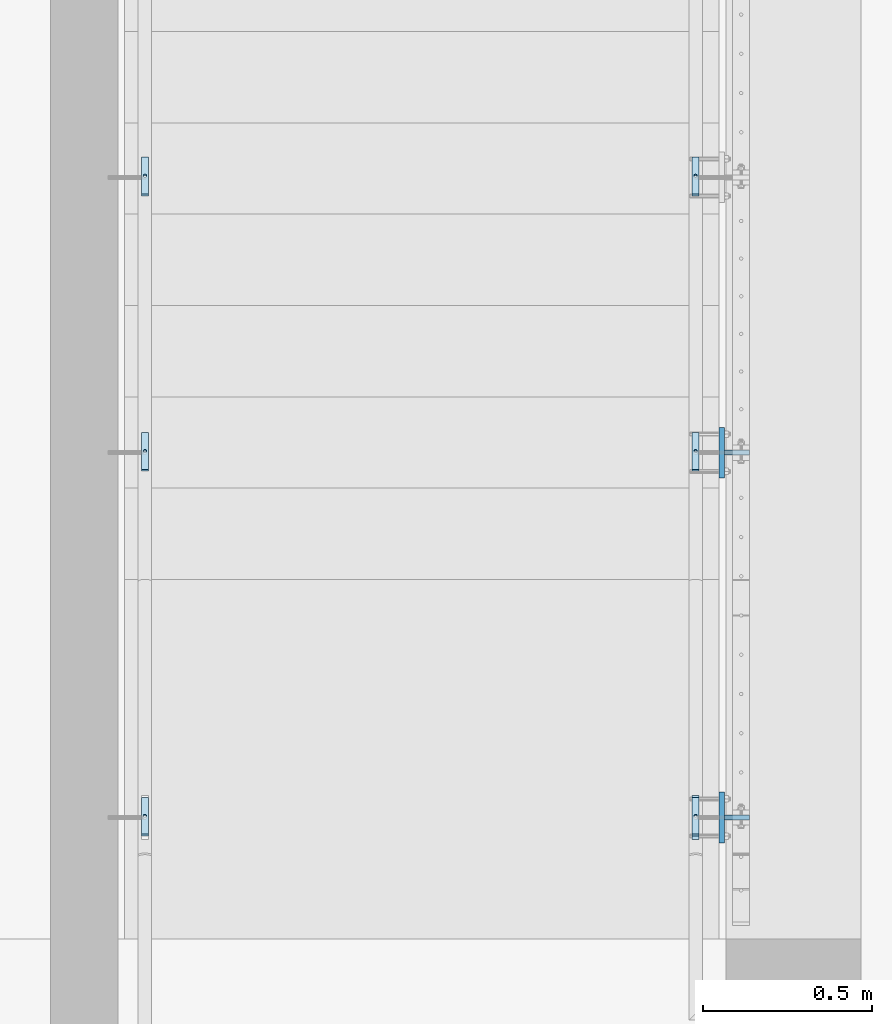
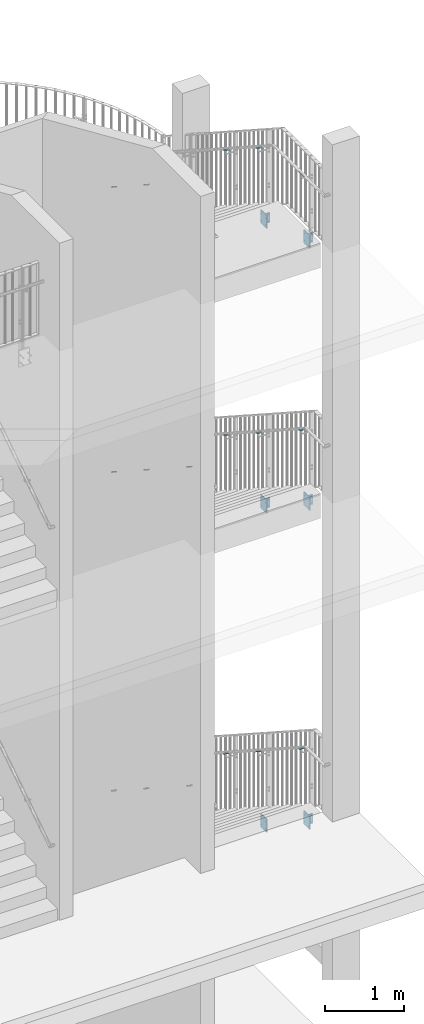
# One storey, part 110 of 296: 28 plates, 51 openings.
"""IFC2X3 building model written with IfcOpenShell, lengths in millimetres."""

from ifc_helpers import new_model, entity, si_unit, converted_unit, frame, frame_2d, origin, origin_with_axes, origin_2d_with_axis, place, context, project, spatial, polyline, circle, outline, extrude, material, layer, layer_set, element, save


model = new_model("IFC2X3")

# Units and contexts
model_context = context("Model", 3, precision=1e-09, world=origin_with_axes())
ifc_project = project(units=[si_unit("LENGTHUNIT", "METRE", prefix="MILLI"), si_unit("AREAUNIT", "SQUARE_METRE"), si_unit("VOLUMEUNIT", "CUBIC_METRE"), converted_unit("PLANEANGLEUNIT", "DEGREE", entity("IfcPlaneAngleMeasure", 0.01745329), si_unit("PLANEANGLEUNIT", "RADIAN"), dimensions=[0, 0, 0, 0, 0, 0, 0])], contexts=[model_context])

# Site, building, storey
site_placement = place(None, origin_with_axes())
site = spatial("IfcSite", under=ifc_project, at=site_placement, Name="TZD-S?d | Treppenhausgel?nder", CompositionType="ELEMENT")
building_placement = place(site_placement, origin_with_axes())
building = spatial("IfcBuilding", under=site, at=building_placement, Name="Struktur 1", CompositionType="ELEMENT")
storey_placement = place(building_placement, origin_with_axes())
storey = spatial("IfcBuildingStorey", under=building, at=storey_placement, Name="Default Storey", CompositionType="ELEMENT", Elevation=0.0)

# Plate, openings
ifc_material = material(Name="S235JR")
ifc_layer_1 = layer(ifc_material, 15.0)
ifc_layer_set_1 = layer_set([ifc_layer_1], Name="S235JR")
plate_1_placement = place(None, frame((5829.999, -3415.0, 13490.001), z_axis=(-1.0, 0.0, 0.0), x_axis=(0.0, -1.0, 0.0)))
plate_1 = element("IfcPlate", 1, at=plate_1_placement, inside=storey, material=ifc_layer_set_1, Name="Girder", ObjectType="Girder", context=model_context, shape_type="SweptSolid", body=[
    extrude(outline(polyline([(-75.0, -100.0), (75.0, -100.0), (75.0, 100.0), (-75.0, 100.0), (-75.0, -100.0)])), origin_with_axes(), (0.0, 0.0, -1.0), 15.0),
])
opening_1_placement = place(plate_1_placement, frame((47.999, 55.0, 0.5), z_axis=(0.0, 0.0, 1.0), x_axis=(1.0, 0.0, 0.0)))
element("IfcOpeningElement", 2, at=opening_1_placement, cuts=plate_1, ObjectType="Opening", context=model_context, shape_type="SweptSolid", body=[
    extrude(circle(Radius=7.001, at=frame_2d((7.001, 0.0), x_axis=(1.0, 0.0))), origin(), (0.0, 0.0, -1.0), 16.0),
])
opening_2_placement = place(plate_1_placement, frame((-62.001, 55.0, 0.5), z_axis=(0.0, 0.0, 1.0), x_axis=(1.0, 0.0, 0.0)))
element("IfcOpeningElement", 3, at=opening_2_placement, cuts=plate_1, ObjectType="Opening", context=model_context, shape_type="SweptSolid", body=[
    extrude(circle(Radius=7.001, at=frame_2d((7.001, 0.0), x_axis=(1.0, 0.0))), origin(), (0.0, 0.0, -1.0), 16.0),
])
opening_3_placement = place(plate_1_placement, frame((47.999, -55.0, 0.5), z_axis=(0.0, 0.0, 1.0), x_axis=(1.0, 0.0, 0.0)))
element("IfcOpeningElement", 4, at=opening_3_placement, cuts=plate_1, ObjectType="Opening", context=model_context, shape_type="SweptSolid", body=[
    extrude(circle(Radius=7.001, at=frame_2d((7.001, 0.0), x_axis=(1.0, 0.0))), origin(), (0.0, 0.0, -1.0), 16.0),
])
opening_4_placement = place(plate_1_placement, frame((-62.001, -55.0, 0.5), z_axis=(0.0, 0.0, 1.0), x_axis=(1.0, 0.0, 0.0)))
element("IfcOpeningElement", 5, at=opening_4_placement, cuts=plate_1, ObjectType="Opening", context=model_context, shape_type="SweptSolid", body=[
    extrude(circle(Radius=7.001, at=frame_2d((7.001, 0.0), x_axis=(1.0, 0.0))), origin(), (0.0, 0.0, -1.0), 16.0),
])

plate_2_placement = place(None, frame((5882.499, -3407.5, 13490.001), z_axis=(0.0, 1.0, 0.0), x_axis=(-1.0, 0.0, 0.0)))
plate_2 = element("IfcPlate", 6, at=plate_2_placement, inside=storey, material=ifc_layer_set_1, Name="Girder", ObjectType="Girder", context=model_context, shape_type="SweptSolid", body=[
    extrude(outline(polyline([(-37.5, -75.0), (37.5, -75.0), (37.5, 75.0), (-37.5, 75.0), (-37.5, -75.0)])), origin_with_axes(), (0.0, 0.0, -1.0), 15.0),
])
opening_5_placement = place(plate_2_placement, frame((-19.501, 50.0, 0.5), z_axis=(0.0, 0.0, 1.0), x_axis=(1.0, 0.0, 0.0)))
element("IfcOpeningElement", 7, at=opening_5_placement, cuts=plate_2, ObjectType="Opening", context=model_context, shape_type="SweptSolid", body=[
    extrude(circle(Radius=7.001, at=frame_2d((7.001, 0.0), x_axis=(1.0, 0.0))), origin(), (0.0, 0.0, -1.0), 16.0),
])
opening_6_placement = place(plate_2_placement, frame((-19.501, -50.0, 0.5), z_axis=(0.0, 0.0, 1.0), x_axis=(1.0, 0.0, 0.0)))
element("IfcOpeningElement", 8, at=opening_6_placement, cuts=plate_2, ObjectType="Opening", context=model_context, shape_type="SweptSolid", body=[
    extrude(circle(Radius=7.001, at=frame_2d((7.001, 0.0), x_axis=(1.0, 0.0))), origin(), (0.0, 0.0, -1.0), 16.0),
])

# Plate, opening
ifc_layer_2 = layer(ifc_material, 10.0)
ifc_layer_set_2 = layer_set([ifc_layer_2], Name="S235JR")
plate_3_placement = place(None, frame((5759.999, -3415.0, 14510.0), z_axis=(0.0, 0.0, -1.0), x_axis=(0.0, -1.0, 0.0)))
plate_3 = element("IfcPlate", 9, at=plate_3_placement, inside=storey, material=ifc_layer_set_2, Name="Girder", ObjectType="Girder", context=model_context, shape_type="SweptSolid", body=[
    extrude(outline(polyline([(-65.0, -10.0), (65.0, -10.0), (65.0, 10.0), (-65.0, 10.0), (-65.0, -10.0)])), origin_with_axes(), (0.0, 0.0, -1.0), 10.0),
])
opening_7_placement = place(plate_3_placement, frame((-5.605e-06, 9.432e-06, 0.5), z_axis=(0.0, 0.0, -1.0), x_axis=(0.0, -1.0, 0.0)))
element("IfcOpeningElement", 10, at=opening_7_placement, cuts=plate_3, ObjectType="Opening", context=model_context, shape_type="SweptSolid", body=[
    extrude(circle(Radius=5.001, at=origin_2d_with_axis()), origin(), (0.0, 0.0, 1.0), 11.0),
])

# Plate, openings
plate_4_placement = place(None, frame((5829.999, -3415.0, 9465.001), z_axis=(-1.0, 0.0, 0.0), x_axis=(0.0, -1.0, 0.0)))
plate_4 = element("IfcPlate", 11, at=plate_4_placement, inside=storey, material=ifc_layer_set_1, Name="Girder", ObjectType="Girder", context=model_context, shape_type="SweptSolid", body=[
    extrude(outline(polyline([(-75.0, -100.0), (75.0, -100.0), (75.0, 100.0), (-75.0, 100.0), (-75.0, -100.0)])), origin_with_axes(), (0.0, 0.0, -1.0), 15.0),
])
opening_8_placement = place(plate_4_placement, frame((47.999, 55.0, 0.5), z_axis=(0.0, 0.0, 1.0), x_axis=(1.0, 0.0, 0.0)))
element("IfcOpeningElement", 12, at=opening_8_placement, cuts=plate_4, ObjectType="Opening", context=model_context, shape_type="SweptSolid", body=[
    extrude(circle(Radius=7.001, at=frame_2d((7.001, 0.0), x_axis=(1.0, 0.0))), origin(), (0.0, 0.0, -1.0), 16.0),
])
opening_9_placement = place(plate_4_placement, frame((-62.001, 55.0, 0.5), z_axis=(0.0, 0.0, 1.0), x_axis=(1.0, 0.0, 0.0)))
element("IfcOpeningElement", 13, at=opening_9_placement, cuts=plate_4, ObjectType="Opening", context=model_context, shape_type="SweptSolid", body=[
    extrude(circle(Radius=7.001, at=frame_2d((7.001, 0.0), x_axis=(1.0, 0.0))), origin(), (0.0, 0.0, -1.0), 16.0),
])
opening_10_placement = place(plate_4_placement, frame((47.999, -55.0, 0.5), z_axis=(0.0, 0.0, 1.0), x_axis=(1.0, 0.0, 0.0)))
element("IfcOpeningElement", 14, at=opening_10_placement, cuts=plate_4, ObjectType="Opening", context=model_context, shape_type="SweptSolid", body=[
    extrude(circle(Radius=7.001, at=frame_2d((7.001, 0.0), x_axis=(1.0, 0.0))), origin(), (0.0, 0.0, -1.0), 16.0),
])
opening_11_placement = place(plate_4_placement, frame((-62.001, -55.0, 0.5), z_axis=(0.0, 0.0, 1.0), x_axis=(1.0, 0.0, 0.0)))
element("IfcOpeningElement", 15, at=opening_11_placement, cuts=plate_4, ObjectType="Opening", context=model_context, shape_type="SweptSolid", body=[
    extrude(circle(Radius=7.001, at=frame_2d((7.001, 0.0), x_axis=(1.0, 0.0))), origin(), (0.0, 0.0, -1.0), 16.0),
])

plate_5_placement = place(None, frame((5882.499, -3407.5, 9465.001), z_axis=(0.0, 1.0, 0.0), x_axis=(-1.0, 0.0, 0.0)))
plate_5 = element("IfcPlate", 16, at=plate_5_placement, inside=storey, material=ifc_layer_set_1, Name="Girder", ObjectType="Girder", context=model_context, shape_type="SweptSolid", body=[
    extrude(outline(polyline([(-37.5, -75.0), (37.5, -75.0), (37.5, 75.0), (-37.5, 75.0), (-37.5, -75.0)])), origin_with_axes(), (0.0, 0.0, -1.0), 15.0),
])
opening_12_placement = place(plate_5_placement, frame((-19.501, 50.0, 0.5), z_axis=(0.0, 0.0, 1.0), x_axis=(1.0, 0.0, 0.0)))
element("IfcOpeningElement", 17, at=opening_12_placement, cuts=plate_5, ObjectType="Opening", context=model_context, shape_type="SweptSolid", body=[
    extrude(circle(Radius=7.001, at=frame_2d((7.001, 0.0), x_axis=(1.0, 0.0))), origin(), (0.0, 0.0, -1.0), 16.0),
])
opening_13_placement = place(plate_5_placement, frame((-19.501, -50.0, 0.5), z_axis=(0.0, 0.0, 1.0), x_axis=(1.0, 0.0, 0.0)))
element("IfcOpeningElement", 18, at=opening_13_placement, cuts=plate_5, ObjectType="Opening", context=model_context, shape_type="SweptSolid", body=[
    extrude(circle(Radius=7.001, at=frame_2d((7.001, 0.0), x_axis=(1.0, 0.0))), origin(), (0.0, 0.0, -1.0), 16.0),
])

# Plate, opening
plate_6_placement = place(None, frame((5759.999, -3415.0, 10581.098661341), z_axis=(0.0, -0.543608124, -0.839339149), x_axis=(0.0, -0.839339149, 0.543608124)))
plate_6 = element("IfcPlate", 19, at=plate_6_placement, inside=storey, material=ifc_layer_set_2, Name="Girder", ObjectType="Girder", context=model_context, shape_type="SweptSolid", body=[
    extrude(outline(polyline([(-65.0, -10.0), (65.0, -10.0), (65.0, 10.0), (-65.0, 10.0), (-65.0, -10.0)])), origin_with_axes(), (0.0, 0.0, -1.0), 10.0),
])
opening_14_placement = place(plate_6_placement, frame((4.144e-06, -2.786e-06, 0.5), z_axis=(0.0, 0.0, -1.0), x_axis=(-1.0, 0.0, 0.0)))
element("IfcOpeningElement", 20, at=opening_14_placement, cuts=plate_6, ObjectType="Opening", context=model_context, shape_type="SweptSolid", body=[
    extrude(circle(Radius=5.001, at=origin_2d_with_axis()), origin(), (0.0, 0.0, 1.0), 11.0),
])

# Plate, openings
plate_7_placement = place(None, frame((5829.999, -3415.0, 4565.001), z_axis=(-1.0, 0.0, 0.0), x_axis=(0.0, -1.0, 0.0)))
plate_7 = element("IfcPlate", 21, at=plate_7_placement, inside=storey, material=ifc_layer_set_1, Name="Girder", ObjectType="Girder", context=model_context, shape_type="SweptSolid", body=[
    extrude(outline(polyline([(-75.0, -100.0), (75.0, -100.0), (75.0, 100.0), (-75.0, 100.0), (-75.0, -100.0)])), origin_with_axes(), (0.0, 0.0, -1.0), 15.0),
])
opening_15_placement = place(plate_7_placement, frame((47.999, 55.0, 0.5), z_axis=(0.0, 0.0, 1.0), x_axis=(1.0, 0.0, 0.0)))
element("IfcOpeningElement", 22, at=opening_15_placement, cuts=plate_7, ObjectType="Opening", context=model_context, shape_type="SweptSolid", body=[
    extrude(circle(Radius=7.001, at=frame_2d((7.001, 0.0), x_axis=(1.0, 0.0))), origin(), (0.0, 0.0, -1.0), 16.0),
])
opening_16_placement = place(plate_7_placement, frame((-62.001, 55.0, 0.5), z_axis=(0.0, 0.0, 1.0), x_axis=(1.0, 0.0, 0.0)))
element("IfcOpeningElement", 23, at=opening_16_placement, cuts=plate_7, ObjectType="Opening", context=model_context, shape_type="SweptSolid", body=[
    extrude(circle(Radius=7.001, at=frame_2d((7.001, 0.0), x_axis=(1.0, 0.0))), origin(), (0.0, 0.0, -1.0), 16.0),
])
opening_17_placement = place(plate_7_placement, frame((47.999, -55.0, 0.5), z_axis=(0.0, 0.0, 1.0), x_axis=(1.0, 0.0, 0.0)))
element("IfcOpeningElement", 24, at=opening_17_placement, cuts=plate_7, ObjectType="Opening", context=model_context, shape_type="SweptSolid", body=[
    extrude(circle(Radius=7.001, at=frame_2d((7.001, 0.0), x_axis=(1.0, 0.0))), origin(), (0.0, 0.0, -1.0), 16.0),
])
opening_18_placement = place(plate_7_placement, frame((-62.001, -55.0, 0.5), z_axis=(0.0, 0.0, 1.0), x_axis=(1.0, 0.0, 0.0)))
element("IfcOpeningElement", 25, at=opening_18_placement, cuts=plate_7, ObjectType="Opening", context=model_context, shape_type="SweptSolid", body=[
    extrude(circle(Radius=7.001, at=frame_2d((7.001, 0.0), x_axis=(1.0, 0.0))), origin(), (0.0, 0.0, -1.0), 16.0),
])

plate_8_placement = place(None, frame((5882.499, -3407.5, 4565.001), z_axis=(0.0, 1.0, 0.0), x_axis=(-1.0, 0.0, 0.0)))
plate_8 = element("IfcPlate", 26, at=plate_8_placement, inside=storey, material=ifc_layer_set_1, Name="Girder", ObjectType="Girder", context=model_context, shape_type="SweptSolid", body=[
    extrude(outline(polyline([(-37.5, -75.0), (37.5, -75.0), (37.5, 75.0), (-37.5, 75.0), (-37.5, -75.0)])), origin_with_axes(), (0.0, 0.0, -1.0), 15.0),
])
opening_19_placement = place(plate_8_placement, frame((-19.501, 50.0, 0.5), z_axis=(0.0, 0.0, 1.0), x_axis=(1.0, 0.0, 0.0)))
element("IfcOpeningElement", 27, at=opening_19_placement, cuts=plate_8, ObjectType="Opening", context=model_context, shape_type="SweptSolid", body=[
    extrude(circle(Radius=7.001, at=frame_2d((7.001, 0.0), x_axis=(1.0, 0.0))), origin(), (0.0, 0.0, -1.0), 16.0),
])
opening_20_placement = place(plate_8_placement, frame((-19.501, -50.0, 0.5), z_axis=(0.0, 0.0, 1.0), x_axis=(1.0, 0.0, 0.0)))
element("IfcOpeningElement", 28, at=opening_20_placement, cuts=plate_8, ObjectType="Opening", context=model_context, shape_type="SweptSolid", body=[
    extrude(circle(Radius=7.001, at=frame_2d((7.001, 0.0), x_axis=(1.0, 0.0))), origin(), (0.0, 0.0, -1.0), 16.0),
])

# Plate, opening
plate_9_placement = place(None, frame((5759.999, -3415.0, 5684.475900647), z_axis=(0.0, -0.542959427, -0.83975893), x_axis=(0.0, -0.83975893, 0.542959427)))
plate_9 = element("IfcPlate", 29, at=plate_9_placement, inside=storey, material=ifc_layer_set_2, Name="Girder", ObjectType="Girder", context=model_context, shape_type="SweptSolid", body=[
    extrude(outline(polyline([(-65.0, -10.0), (65.0, -10.0), (65.0, 10.0), (-65.0, 10.0), (-65.0, -10.0)])), origin_with_axes(), (0.0, 0.0, -1.0), 10.0),
])
opening_21_placement = place(plate_9_placement, frame((1.72e-07, -1.79e-07, 0.500000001), z_axis=(0.0, 0.0, -1.0), x_axis=(-1.0, 0.0, 0.0)))
element("IfcOpeningElement", 30, at=opening_21_placement, cuts=plate_9, ObjectType="Opening", context=model_context, shape_type="SweptSolid", body=[
    extrude(circle(Radius=5.001, at=origin_2d_with_axis()), origin(), (0.0, 0.0, 1.0), 11.0),
])

# Plate, openings
plate_10_placement = place(None, frame((5829.999, -2335.0, 13140.001), z_axis=(-1.0, 0.0, 0.0), x_axis=(0.0, -1.0, 0.0)))
plate_10 = element("IfcPlate", 31, at=plate_10_placement, inside=storey, material=ifc_layer_set_1, Name="Girder", ObjectType="Girder", context=model_context, shape_type="SweptSolid", body=[
    extrude(outline(polyline([(-75.0, -100.0), (75.0, -100.0), (75.0, 100.0), (-75.0, 100.0), (-75.0, -100.0)])), origin_with_axes(), (0.0, 0.0, -1.0), 15.0),
])
opening_22_placement = place(plate_10_placement, frame((47.999, 55.0, 0.5), z_axis=(0.0, 0.0, 1.0), x_axis=(1.0, 0.0, 0.0)))
element("IfcOpeningElement", 32, at=opening_22_placement, cuts=plate_10, ObjectType="Opening", context=model_context, shape_type="SweptSolid", body=[
    extrude(circle(Radius=7.001, at=frame_2d((7.001, 0.0), x_axis=(1.0, 0.0))), origin(), (0.0, 0.0, -1.0), 16.0),
])
opening_23_placement = place(plate_10_placement, frame((-62.001, 55.0, 0.5), z_axis=(0.0, 0.0, 1.0), x_axis=(1.0, 0.0, 0.0)))
element("IfcOpeningElement", 33, at=opening_23_placement, cuts=plate_10, ObjectType="Opening", context=model_context, shape_type="SweptSolid", body=[
    extrude(circle(Radius=7.001, at=frame_2d((7.001, 0.0), x_axis=(1.0, 0.0))), origin(), (0.0, 0.0, -1.0), 16.0),
])
opening_24_placement = place(plate_10_placement, frame((47.999, -55.0, 0.5), z_axis=(0.0, 0.0, 1.0), x_axis=(1.0, 0.0, 0.0)))
element("IfcOpeningElement", 34, at=opening_24_placement, cuts=plate_10, ObjectType="Opening", context=model_context, shape_type="SweptSolid", body=[
    extrude(circle(Radius=7.001, at=frame_2d((7.001, 0.0), x_axis=(1.0, 0.0))), origin(), (0.0, 0.0, -1.0), 16.0),
])
opening_25_placement = place(plate_10_placement, frame((-62.001, -55.0, 0.5), z_axis=(0.0, 0.0, 1.0), x_axis=(1.0, 0.0, 0.0)))
element("IfcOpeningElement", 35, at=opening_25_placement, cuts=plate_10, ObjectType="Opening", context=model_context, shape_type="SweptSolid", body=[
    extrude(circle(Radius=7.001, at=frame_2d((7.001, 0.0), x_axis=(1.0, 0.0))), origin(), (0.0, 0.0, -1.0), 16.0),
])

plate_11_placement = place(None, frame((5882.499, -2327.5, 13140.001), z_axis=(0.0, 1.0, 0.0), x_axis=(-1.0, 0.0, 0.0)))
plate_11 = element("IfcPlate", 36, at=plate_11_placement, inside=storey, material=ifc_layer_set_1, Name="Girder", ObjectType="Girder", context=model_context, shape_type="SweptSolid", body=[
    extrude(outline(polyline([(-37.5, -75.0), (37.5, -75.0), (37.5, 75.0), (-37.5, 75.0), (-37.5, -75.0)])), origin_with_axes(), (0.0, 0.0, -1.0), 15.0),
])
opening_26_placement = place(plate_11_placement, frame((-19.501, 50.0, 0.5), z_axis=(0.0, 0.0, 1.0), x_axis=(1.0, 0.0, 0.0)))
element("IfcOpeningElement", 37, at=opening_26_placement, cuts=plate_11, ObjectType="Opening", context=model_context, shape_type="SweptSolid", body=[
    extrude(circle(Radius=7.001, at=frame_2d((7.001, 0.0), x_axis=(1.0, 0.0))), origin(), (0.0, 0.0, -1.0), 16.0),
])
opening_27_placement = place(plate_11_placement, frame((-19.501, -50.0, 0.5), z_axis=(0.0, 0.0, 1.0), x_axis=(1.0, 0.0, 0.0)))
element("IfcOpeningElement", 38, at=opening_27_placement, cuts=plate_11, ObjectType="Opening", context=model_context, shape_type="SweptSolid", body=[
    extrude(circle(Radius=7.001, at=frame_2d((7.001, 0.0), x_axis=(1.0, 0.0))), origin(), (0.0, 0.0, -1.0), 16.0),
])

# Plate, opening
plate_12_placement = place(None, frame((5759.999, -2335.0, 14259.555334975), z_axis=(0.0, -0.543478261, -0.839423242), x_axis=(0.0, -0.839423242, 0.543478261)))
plate_12 = element("IfcPlate", 39, at=plate_12_placement, inside=storey, material=ifc_layer_set_2, Name="Girder", ObjectType="Girder", context=model_context, shape_type="SweptSolid", body=[
    extrude(outline(polyline([(-65.0, -10.0), (65.0, -10.0), (65.0, 10.0), (-65.0, 10.0), (-65.0, -10.0)])), origin_with_axes(), (0.0, 0.0, -1.0), 10.0),
])
opening_28_placement = place(plate_12_placement, frame((8.108e-06, -4.815e-06, 0.499999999), z_axis=(0.0, 0.0, -1.0), x_axis=(-1.0, 0.0, 0.0)))
element("IfcOpeningElement", 40, at=opening_28_placement, cuts=plate_12, ObjectType="Opening", context=model_context, shape_type="SweptSolid", body=[
    extrude(circle(Radius=5.001, at=origin_2d_with_axis()), origin(), (0.0, 0.0, 1.0), 11.0),
])

plate_13_placement = place(None, frame((5759.999, -1520.0, 13731.889718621), z_axis=(0.0, -0.543478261, -0.839423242), x_axis=(0.0, -0.839423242, 0.543478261)))
plate_13 = element("IfcPlate", 41, at=plate_13_placement, inside=storey, material=ifc_layer_set_2, Name="Girder", ObjectType="Girder", context=model_context, shape_type="SweptSolid", body=[
    extrude(outline(polyline([(-65.0, -10.0), (65.0, -10.0), (65.0, 10.0), (-65.0, 10.0), (-65.0, -10.0)])), origin_with_axes(), (0.0, 0.0, -1.0), 10.0),
])
opening_29_placement = place(plate_13_placement, frame((2.943e-06, -1.956e-06, 0.499999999), z_axis=(0.0, 0.0, -1.0), x_axis=(-1.0, 0.0, 0.0)))
element("IfcOpeningElement", 42, at=opening_29_placement, cuts=plate_13, ObjectType="Opening", context=model_context, shape_type="SweptSolid", body=[
    extrude(circle(Radius=5.001, at=origin_2d_with_axis()), origin(), (0.0, 0.0, 1.0), 11.0),
])

# Plate, openings
plate_14_placement = place(None, frame((5829.999, -2335.0, 8764.997), z_axis=(-1.0, 0.0, 0.0), x_axis=(0.0, -1.0, 0.0)))
plate_14 = element("IfcPlate", 43, at=plate_14_placement, inside=storey, material=ifc_layer_set_1, Name="Girder", ObjectType="Girder", context=model_context, shape_type="SweptSolid", body=[
    extrude(outline(polyline([(-75.0, -100.0), (75.0, -100.0), (75.0, 100.0), (-75.0, 100.0), (-75.0, -100.0)])), origin_with_axes(), (0.0, 0.0, -1.0), 15.0),
])
opening_30_placement = place(plate_14_placement, frame((47.999, 55.0, 0.5), z_axis=(0.0, 0.0, 1.0), x_axis=(1.0, 0.0, 0.0)))
element("IfcOpeningElement", 44, at=opening_30_placement, cuts=plate_14, ObjectType="Opening", context=model_context, shape_type="SweptSolid", body=[
    extrude(circle(Radius=7.001, at=frame_2d((7.001, 0.0), x_axis=(1.0, 0.0))), origin(), (0.0, 0.0, -1.0), 16.0),
])
opening_31_placement = place(plate_14_placement, frame((-62.001, 55.0, 0.5), z_axis=(0.0, 0.0, 1.0), x_axis=(1.0, 0.0, 0.0)))
element("IfcOpeningElement", 45, at=opening_31_placement, cuts=plate_14, ObjectType="Opening", context=model_context, shape_type="SweptSolid", body=[
    extrude(circle(Radius=7.001, at=frame_2d((7.001, 0.0), x_axis=(1.0, 0.0))), origin(), (0.0, 0.0, -1.0), 16.0),
])
opening_32_placement = place(plate_14_placement, frame((47.999, -55.0, 0.5), z_axis=(0.0, 0.0, 1.0), x_axis=(1.0, 0.0, 0.0)))
element("IfcOpeningElement", 46, at=opening_32_placement, cuts=plate_14, ObjectType="Opening", context=model_context, shape_type="SweptSolid", body=[
    extrude(circle(Radius=7.001, at=frame_2d((7.001, 0.0), x_axis=(1.0, 0.0))), origin(), (0.0, 0.0, -1.0), 16.0),
])
opening_33_placement = place(plate_14_placement, frame((-62.001, -55.0, 0.5), z_axis=(0.0, 0.0, 1.0), x_axis=(1.0, 0.0, 0.0)))
element("IfcOpeningElement", 47, at=opening_33_placement, cuts=plate_14, ObjectType="Opening", context=model_context, shape_type="SweptSolid", body=[
    extrude(circle(Radius=7.001, at=frame_2d((7.001, 0.0), x_axis=(1.0, 0.0))), origin(), (0.0, 0.0, -1.0), 16.0),
])

plate_15_placement = place(None, frame((5882.499, -2327.5, 8764.997), z_axis=(0.0, 1.0, 0.0), x_axis=(-1.0, 0.0, 0.0)))
plate_15 = element("IfcPlate", 48, at=plate_15_placement, inside=storey, material=ifc_layer_set_1, Name="Girder", ObjectType="Girder", context=model_context, shape_type="SweptSolid", body=[
    extrude(outline(polyline([(-37.5, -75.0), (37.5, -75.0), (37.5, 75.0), (-37.5, 75.0), (-37.5, -75.0)])), origin_with_axes(), (0.0, 0.0, -1.0), 15.0),
])
opening_34_placement = place(plate_15_placement, frame((-19.501, 50.0, 0.5), z_axis=(0.0, 0.0, 1.0), x_axis=(1.0, 0.0, 0.0)))
element("IfcOpeningElement", 49, at=opening_34_placement, cuts=plate_15, ObjectType="Opening", context=model_context, shape_type="SweptSolid", body=[
    extrude(circle(Radius=7.001, at=frame_2d((7.001, 0.0), x_axis=(1.0, 0.0))), origin(), (0.0, 0.0, -1.0), 16.0),
])
opening_35_placement = place(plate_15_placement, frame((-19.501, -50.0, 0.5), z_axis=(0.0, 0.0, 1.0), x_axis=(1.0, 0.0, 0.0)))
element("IfcOpeningElement", 50, at=opening_35_placement, cuts=plate_15, ObjectType="Opening", context=model_context, shape_type="SweptSolid", body=[
    extrude(circle(Radius=7.001, at=frame_2d((7.001, 0.0), x_axis=(1.0, 0.0))), origin(), (0.0, 0.0, -1.0), 16.0),
])

# Plate, opening
plate_16_placement = place(None, frame((5759.999, -2335.0, 9881.623634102), z_axis=(0.0, -0.543608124, -0.839339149), x_axis=(0.0, -0.839339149, 0.543608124)))
plate_16 = element("IfcPlate", 51, at=plate_16_placement, inside=storey, material=ifc_layer_set_2, Name="Girder", ObjectType="Girder", context=model_context, shape_type="SweptSolid", body=[
    extrude(outline(polyline([(-65.0, -10.0), (65.0, -10.0), (65.0, 10.0), (-65.0, 10.0), (-65.0, -10.0)])), origin_with_axes(), (0.0, 0.0, -1.0), 10.0),
])
opening_36_placement = place(plate_16_placement, frame((-1.444e-06, 1.165e-06, 0.5), z_axis=(0.0, 0.0, -1.0), x_axis=(-1.0, 0.0, 0.0)))
element("IfcOpeningElement", 52, at=opening_36_placement, cuts=plate_16, ObjectType="Opening", context=model_context, shape_type="SweptSolid", body=[
    extrude(circle(Radius=5.001, at=origin_2d_with_axis()), origin(), (0.0, 0.0, 1.0), 11.0),
])

plate_17_placement = place(None, frame((5759.999, -1520.0, 9353.779053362), z_axis=(0.0, -0.543608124, -0.839339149), x_axis=(0.0, -0.839339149, 0.543608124)))
plate_17 = element("IfcPlate", 53, at=plate_17_placement, inside=storey, material=ifc_layer_set_2, Name="Girder", ObjectType="Girder", context=model_context, shape_type="SweptSolid", body=[
    extrude(outline(polyline([(-65.0, -10.0), (65.0, -10.0), (65.0, 10.0), (-65.0, 10.0), (-65.0, -10.0)])), origin_with_axes(), (0.0, 0.0, -1.0), 10.0),
])
opening_37_placement = place(plate_17_placement, frame((2.298e-06, -2.078e-06, 0.5), z_axis=(0.0, 0.0, -1.0), x_axis=(-1.0, 0.0, 0.0)))
element("IfcOpeningElement", 54, at=opening_37_placement, cuts=plate_17, ObjectType="Opening", context=model_context, shape_type="SweptSolid", body=[
    extrude(circle(Radius=5.001, at=origin_2d_with_axis()), origin(), (0.0, 0.0, 1.0), 11.0),
])

# Plate, openings
plate_18_placement = place(None, frame((5829.999, -2335.0, 3864.997), z_axis=(-1.0, 0.0, 0.0), x_axis=(0.0, -1.0, 0.0)))
plate_18 = element("IfcPlate", 55, at=plate_18_placement, inside=storey, material=ifc_layer_set_1, Name="Girder", ObjectType="Girder", context=model_context, shape_type="SweptSolid", body=[
    extrude(outline(polyline([(-75.0, -100.0), (75.0, -100.0), (75.0, 100.0), (-75.0, 100.0), (-75.0, -100.0)])), origin_with_axes(), (0.0, 0.0, -1.0), 15.0),
])
opening_38_placement = place(plate_18_placement, frame((47.999, 55.0, 0.5), z_axis=(0.0, 0.0, 1.0), x_axis=(1.0, 0.0, 0.0)))
element("IfcOpeningElement", 56, at=opening_38_placement, cuts=plate_18, ObjectType="Opening", context=model_context, shape_type="SweptSolid", body=[
    extrude(circle(Radius=7.001, at=frame_2d((7.001, 0.0), x_axis=(1.0, 0.0))), origin(), (0.0, 0.0, -1.0), 16.0),
])
opening_39_placement = place(plate_18_placement, frame((-62.001, 55.0, 0.5), z_axis=(0.0, 0.0, 1.0), x_axis=(1.0, 0.0, 0.0)))
element("IfcOpeningElement", 57, at=opening_39_placement, cuts=plate_18, ObjectType="Opening", context=model_context, shape_type="SweptSolid", body=[
    extrude(circle(Radius=7.001, at=frame_2d((7.001, 0.0), x_axis=(1.0, 0.0))), origin(), (0.0, 0.0, -1.0), 16.0),
])
opening_40_placement = place(plate_18_placement, frame((47.999, -55.0, 0.5), z_axis=(0.0, 0.0, 1.0), x_axis=(1.0, 0.0, 0.0)))
element("IfcOpeningElement", 58, at=opening_40_placement, cuts=plate_18, ObjectType="Opening", context=model_context, shape_type="SweptSolid", body=[
    extrude(circle(Radius=7.001, at=frame_2d((7.001, 0.0), x_axis=(1.0, 0.0))), origin(), (0.0, 0.0, -1.0), 16.0),
])
opening_41_placement = place(plate_18_placement, frame((-62.001, -55.0, 0.5), z_axis=(0.0, 0.0, 1.0), x_axis=(1.0, 0.0, 0.0)))
element("IfcOpeningElement", 59, at=opening_41_placement, cuts=plate_18, ObjectType="Opening", context=model_context, shape_type="SweptSolid", body=[
    extrude(circle(Radius=7.001, at=frame_2d((7.001, 0.0), x_axis=(1.0, 0.0))), origin(), (0.0, 0.0, -1.0), 16.0),
])

# Plate, opening
plate_19_placement = place(None, frame((5759.999, -2335.0, 4986.184807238), z_axis=(0.0, -0.542959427, -0.83975893), x_axis=(0.0, -0.83975893, 0.542959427)))
plate_19 = element("IfcPlate", 60, at=plate_19_placement, inside=storey, material=ifc_layer_set_2, Name="Girder", ObjectType="Girder", context=model_context, shape_type="SweptSolid", body=[
    extrude(outline(polyline([(-65.0, -10.0), (65.0, -10.0), (65.0, 10.0), (-65.0, 10.0), (-65.0, -10.0)])), origin_with_axes(), (0.0, 0.0, -1.0), 10.0),
])
opening_42_placement = place(plate_19_placement, frame((-2.2e-07, 2.8e-07, 0.500000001), z_axis=(0.0, 0.0, -1.0), x_axis=(-1.0, 0.0, 0.0)))
element("IfcOpeningElement", 61, at=opening_42_placement, cuts=plate_19, ObjectType="Opening", context=model_context, shape_type="SweptSolid", body=[
    extrude(circle(Radius=5.001, at=origin_2d_with_axis()), origin(), (0.0, 0.0, 1.0), 11.0),
])

plate_20_placement = place(None, frame((5759.999, -1520.0, 4459.471900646), z_axis=(0.0, -0.542959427, -0.83975893), x_axis=(0.0, -0.83975893, 0.542959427)))
plate_20 = element("IfcPlate", 62, at=plate_20_placement, inside=storey, material=ifc_layer_set_2, Name="Girder", ObjectType="Girder", context=model_context, shape_type="SweptSolid", body=[
    extrude(outline(polyline([(-65.0, -10.0), (65.0, -10.0), (65.0, 10.0), (-65.0, 10.0), (-65.0, -10.0)])), origin_with_axes(), (0.0, 0.0, -1.0), 10.0),
])
opening_43_placement = place(plate_20_placement, frame((4.81e-07, -7.49e-07, 0.5), z_axis=(0.0, 0.0, -1.0), x_axis=(-1.0, 0.0, 0.0)))
element("IfcOpeningElement", 63, at=opening_43_placement, cuts=plate_20, ObjectType="Opening", context=model_context, shape_type="SweptSolid", body=[
    extrude(circle(Radius=5.001, at=origin_2d_with_axis()), origin(), (0.0, 0.0, 1.0), 11.0),
])

plate_21_placement = place(None, frame((4129.999, -2335.0, 14259.555334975), z_axis=(0.0, 0.543478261, 0.839423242), x_axis=(0.0, -0.839423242, 0.543478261)))
plate_21 = element("IfcPlate", 64, at=plate_21_placement, inside=storey, material=ifc_layer_set_2, Name="Girder", ObjectType="Girder", context=model_context, shape_type="SweptSolid", body=[
    extrude(outline(polyline([(-65.0, -10.0), (65.0, -10.0), (65.0, 10.0), (-65.0, 10.0), (-65.0, -10.0)])), origin_with_axes(), (0.0, 0.0, 1.0), 10.0),
])
opening_44_placement = place(plate_21_placement, frame((5.001008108, -4.815e-06, -0.499999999), z_axis=(0.0, 0.0, -1.0), x_axis=(-1.0, 0.0, 0.0)))
element("IfcOpeningElement", 65, at=opening_44_placement, cuts=plate_21, ObjectType="Opening", context=model_context, shape_type="SweptSolid", body=[
    extrude(circle(Radius=5.001, at=frame_2d((5.001, 0.0), x_axis=(1.0, 0.0))), origin(), (0.0, 0.0, -1.0), 11.0),
])

plate_22_placement = place(None, frame((4129.999, -1520.0, 13731.889718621), z_axis=(0.0, 0.543478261, 0.839423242), x_axis=(0.0, -0.839423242, 0.543478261)))
plate_22 = element("IfcPlate", 66, at=plate_22_placement, inside=storey, material=ifc_layer_set_2, Name="Girder", ObjectType="Girder", context=model_context, shape_type="SweptSolid", body=[
    extrude(outline(polyline([(-65.0, -10.0), (65.0, -10.0), (65.0, 10.0), (-65.0, 10.0), (-65.0, -10.0)])), origin_with_axes(), (0.0, 0.0, 1.0), 10.0),
])
opening_45_placement = place(plate_22_placement, frame((5.001002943, -1.956e-06, -0.499999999), z_axis=(0.0, 0.0, -1.0), x_axis=(-1.0, 0.0, 0.0)))
element("IfcOpeningElement", 67, at=opening_45_placement, cuts=plate_22, ObjectType="Opening", context=model_context, shape_type="SweptSolid", body=[
    extrude(circle(Radius=5.001, at=frame_2d((5.001, 0.0), x_axis=(1.0, 0.0))), origin(), (0.0, 0.0, -1.0), 11.0),
])

plate_23_placement = place(None, frame((4129.999, -3415.0, 10581.098661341), z_axis=(0.0, 0.543608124, 0.839339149), x_axis=(0.0, -0.839339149, 0.543608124)))
plate_23 = element("IfcPlate", 68, at=plate_23_placement, inside=storey, material=ifc_layer_set_2, Name="Girder", ObjectType="Girder", context=model_context, shape_type="SweptSolid", body=[
    extrude(outline(polyline([(-65.0, -10.0), (65.0, -10.0), (65.0, 10.0), (-65.0, 10.0), (-65.0, -10.0)])), origin_with_axes(), (0.0, 0.0, 1.0), 10.0),
])
opening_46_placement = place(plate_23_placement, frame((5.001004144, -2.786e-06, -0.5), z_axis=(0.0, 0.0, -1.0), x_axis=(-1.0, 0.0, 0.0)))
element("IfcOpeningElement", 69, at=opening_46_placement, cuts=plate_23, ObjectType="Opening", context=model_context, shape_type="SweptSolid", body=[
    extrude(circle(Radius=5.001, at=frame_2d((5.001, 0.0), x_axis=(1.0, 0.0))), origin(), (0.0, 0.0, -1.0), 11.0),
])

plate_24_placement = place(None, frame((4129.999, -1520.0, 9353.779053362), z_axis=(0.0, 0.543608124, 0.839339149), x_axis=(0.0, -0.839339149, 0.543608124)))
plate_24 = element("IfcPlate", 70, at=plate_24_placement, inside=storey, material=ifc_layer_set_2, Name="Girder", ObjectType="Girder", context=model_context, shape_type="SweptSolid", body=[
    extrude(outline(polyline([(-65.0, -10.0), (65.0, -10.0), (65.0, 10.0), (-65.0, 10.0), (-65.0, -10.0)])), origin_with_axes(), (0.0, 0.0, 1.0), 10.0),
])
opening_47_placement = place(plate_24_placement, frame((5.001002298, -2.078e-06, -0.5), z_axis=(0.0, 0.0, -1.0), x_axis=(-1.0, 0.0, 0.0)))
element("IfcOpeningElement", 71, at=opening_47_placement, cuts=plate_24, ObjectType="Opening", context=model_context, shape_type="SweptSolid", body=[
    extrude(circle(Radius=5.001, at=frame_2d((5.001, 0.0), x_axis=(1.0, 0.0))), origin(), (0.0, 0.0, -1.0), 11.0),
])

plate_25_placement = place(None, frame((4129.999, -2335.0, 9881.623634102), z_axis=(0.0, 0.543608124, 0.839339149), x_axis=(0.0, -0.839339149, 0.543608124)))
plate_25 = element("IfcPlate", 72, at=plate_25_placement, inside=storey, material=ifc_layer_set_2, Name="Girder", ObjectType="Girder", context=model_context, shape_type="SweptSolid", body=[
    extrude(outline(polyline([(-65.0, -10.0), (65.0, -10.0), (65.0, 10.0), (-65.0, 10.0), (-65.0, -10.0)])), origin_with_axes(), (0.0, 0.0, 1.0), 10.0),
])
opening_48_placement = place(plate_25_placement, frame((5.000998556, 1.165e-06, -0.5), z_axis=(0.0, 0.0, -1.0), x_axis=(-1.0, 0.0, 0.0)))
element("IfcOpeningElement", 73, at=opening_48_placement, cuts=plate_25, ObjectType="Opening", context=model_context, shape_type="SweptSolid", body=[
    extrude(circle(Radius=5.001, at=frame_2d((5.001, 0.0), x_axis=(1.0, 0.0))), origin(), (0.0, 0.0, -1.0), 11.0),
])

plate_26_placement = place(None, frame((4129.999, -1520.0, 4459.471900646), z_axis=(0.0, 0.542959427, 0.83975893), x_axis=(0.0, -0.83975893, 0.542959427)))
plate_26 = element("IfcPlate", 74, at=plate_26_placement, inside=storey, material=ifc_layer_set_2, Name="Girder", ObjectType="Girder", context=model_context, shape_type="SweptSolid", body=[
    extrude(outline(polyline([(-65.0, -10.0), (65.0, -10.0), (65.0, 10.0), (-65.0, 10.0), (-65.0, -10.0)])), origin_with_axes(), (0.0, 0.0, 1.0), 10.0),
])
opening_49_placement = place(plate_26_placement, frame((5.001000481, -7.49e-07, -0.5), z_axis=(0.0, 0.0, -1.0), x_axis=(-1.0, 0.0, 0.0)))
element("IfcOpeningElement", 75, at=opening_49_placement, cuts=plate_26, ObjectType="Opening", context=model_context, shape_type="SweptSolid", body=[
    extrude(circle(Radius=5.001, at=frame_2d((5.001, 0.0), x_axis=(1.0, 0.0))), origin(), (0.0, 0.0, -1.0), 11.0),
])

plate_27_placement = place(None, frame((4129.999, -3415.0, 5684.475900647), z_axis=(0.0, 0.542959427, 0.83975893), x_axis=(0.0, -0.83975893, 0.542959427)))
plate_27 = element("IfcPlate", 76, at=plate_27_placement, inside=storey, material=ifc_layer_set_2, Name="Girder", ObjectType="Girder", context=model_context, shape_type="SweptSolid", body=[
    extrude(outline(polyline([(-65.0, -10.0), (65.0, -10.0), (65.0, 10.0), (-65.0, 10.0), (-65.0, -10.0)])), origin_with_axes(), (0.0, 0.0, 1.0), 10.0),
])
opening_50_placement = place(plate_27_placement, frame((5.001000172, -1.79e-07, -0.500000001), z_axis=(0.0, 0.0, -1.0), x_axis=(-1.0, 0.0, 0.0)))
element("IfcOpeningElement", 77, at=opening_50_placement, cuts=plate_27, ObjectType="Opening", context=model_context, shape_type="SweptSolid", body=[
    extrude(circle(Radius=5.001, at=frame_2d((5.001, 0.0), x_axis=(1.0, 0.0))), origin(), (0.0, 0.0, -1.0), 11.0),
])

plate_28_placement = place(None, frame((4129.999, -2335.0, 4986.184807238), z_axis=(0.0, 0.542959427, 0.83975893), x_axis=(0.0, -0.83975893, 0.542959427)))
plate_28 = element("IfcPlate", 78, at=plate_28_placement, inside=storey, material=ifc_layer_set_2, Name="Girder", ObjectType="Girder", context=model_context, shape_type="SweptSolid", body=[
    extrude(outline(polyline([(-65.0, -10.0), (65.0, -10.0), (65.0, 10.0), (-65.0, 10.0), (-65.0, -10.0)])), origin_with_axes(), (0.0, 0.0, 1.0), 10.0),
])
opening_51_placement = place(plate_28_placement, frame((5.00099978, 2.8e-07, -0.500000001), z_axis=(0.0, 0.0, -1.0), x_axis=(-1.0, 0.0, 0.0)))
element("IfcOpeningElement", 79, at=opening_51_placement, cuts=plate_28, ObjectType="Opening", context=model_context, shape_type="SweptSolid", body=[
    extrude(circle(Radius=5.001, at=frame_2d((5.001, 0.0), x_axis=(1.0, 0.0))), origin(), (0.0, 0.0, -1.0), 11.0),
])

save(model, "model.ifc")
